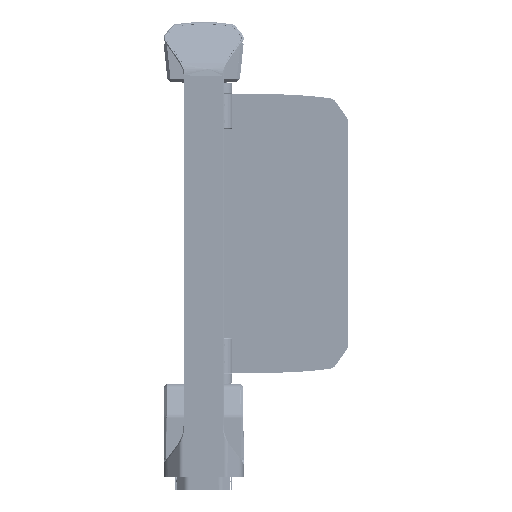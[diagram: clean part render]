
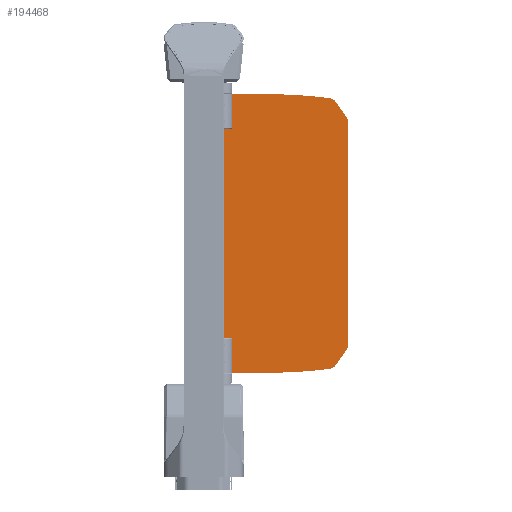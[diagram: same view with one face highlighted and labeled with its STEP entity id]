
A CAD part, front view. The second image highlights one B-rep face of the part: STEP entity #194468.
In plain terms, the highlighted planar face has unit normal (0, -1, 0).
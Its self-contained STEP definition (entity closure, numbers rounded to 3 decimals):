
#25220=CIRCLE('',#302014,20.);
#25222=CIRCLE('',#302018,20.);
#25224=CIRCLE('',#302022,20.);
#25226=CIRCLE('',#302025,1018.368);
#25228=CIRCLE('',#302029,10.);
#25230=CIRCLE('',#302033,10.);
#25232=CIRCLE('',#302037,10.);
#25234=CIRCLE('',#302041,10.);
#25236=CIRCLE('',#302045,10.);
#25238=CIRCLE('',#302049,10.);
#25240=CIRCLE('',#302053,1018.368);
#25242=CIRCLE('',#302056,20.);
#25243=CIRCLE('',#302059,7.);
#25244=CIRCLE('',#302060,7.);
#25245=CIRCLE('',#302061,7.);
#25246=CIRCLE('',#302062,7.);
#86279=ORIENTED_EDGE('',*,*,#114814,.T.);
#86280=ORIENTED_EDGE('',*,*,#114815,.T.);
#86281=ORIENTED_EDGE('',*,*,#114816,.T.);
#86282=ORIENTED_EDGE('',*,*,#114817,.T.);
#86283=ORIENTED_EDGE('',*,*,#114750,.F.);
#86284=ORIENTED_EDGE('',*,*,#114813,.F.);
#86285=ORIENTED_EDGE('',*,*,#114810,.F.);
#86286=ORIENTED_EDGE('',*,*,#114807,.F.);
#86287=ORIENTED_EDGE('',*,*,#114804,.F.);
#86288=ORIENTED_EDGE('',*,*,#114801,.F.);
#86289=ORIENTED_EDGE('',*,*,#114798,.F.);
#86290=ORIENTED_EDGE('',*,*,#114795,.F.);
#86291=ORIENTED_EDGE('',*,*,#114792,.F.);
#86292=ORIENTED_EDGE('',*,*,#114789,.F.);
#86293=ORIENTED_EDGE('',*,*,#114786,.F.);
#86294=ORIENTED_EDGE('',*,*,#114783,.F.);
#86295=ORIENTED_EDGE('',*,*,#114780,.F.);
#86296=ORIENTED_EDGE('',*,*,#114777,.F.);
#86297=ORIENTED_EDGE('',*,*,#114774,.F.);
#86298=ORIENTED_EDGE('',*,*,#114771,.F.);
#86299=ORIENTED_EDGE('',*,*,#114768,.F.);
#86300=ORIENTED_EDGE('',*,*,#114765,.F.);
#86301=ORIENTED_EDGE('',*,*,#114762,.F.);
#86302=ORIENTED_EDGE('',*,*,#114759,.F.);
#86303=ORIENTED_EDGE('',*,*,#114756,.F.);
#86304=ORIENTED_EDGE('',*,*,#114753,.F.);
#114750=EDGE_CURVE('',#131247,#131248,#25220,.T.);
#114753=EDGE_CURVE('',#131248,#131250,#141167,.T.);
#114756=EDGE_CURVE('',#131250,#131252,#25222,.T.);
#114759=EDGE_CURVE('',#131252,#131254,#141171,.T.);
#114762=EDGE_CURVE('',#131254,#131256,#25224,.T.);
#114765=EDGE_CURVE('',#131256,#131258,#25226,.T.);
#114768=EDGE_CURVE('',#131258,#131260,#141176,.T.);
#114771=EDGE_CURVE('',#131260,#131262,#25228,.T.);
#114774=EDGE_CURVE('',#131262,#131264,#141180,.T.);
#114777=EDGE_CURVE('',#131264,#131266,#25230,.T.);
#114780=EDGE_CURVE('',#131266,#131268,#141184,.T.);
#114783=EDGE_CURVE('',#131268,#131270,#25232,.T.);
#114786=EDGE_CURVE('',#131270,#131272,#141188,.T.);
#114789=EDGE_CURVE('',#131272,#131274,#25234,.T.);
#114792=EDGE_CURVE('',#131274,#131276,#141192,.T.);
#114795=EDGE_CURVE('',#131276,#131278,#25236,.T.);
#114798=EDGE_CURVE('',#131278,#131280,#141196,.T.);
#114801=EDGE_CURVE('',#131280,#131282,#25238,.T.);
#114804=EDGE_CURVE('',#131282,#131284,#141200,.T.);
#114807=EDGE_CURVE('',#131284,#131286,#25240,.T.);
#114810=EDGE_CURVE('',#131286,#131288,#25242,.T.);
#114813=EDGE_CURVE('',#131288,#131247,#141205,.T.);
#114814=EDGE_CURVE('',#131289,#131289,#25243,.T.);
#114815=EDGE_CURVE('',#131290,#131290,#25244,.T.);
#114816=EDGE_CURVE('',#131291,#131291,#25245,.T.);
#114817=EDGE_CURVE('',#131292,#131292,#25246,.T.);
#131247=VERTEX_POINT('',#489577);
#131248=VERTEX_POINT('',#489579);
#131250=VERTEX_POINT('',#489585);
#131252=VERTEX_POINT('',#489591);
#131254=VERTEX_POINT('',#489597);
#131256=VERTEX_POINT('',#489603);
#131258=VERTEX_POINT('',#489609);
#131260=VERTEX_POINT('',#489615);
#131262=VERTEX_POINT('',#489621);
#131264=VERTEX_POINT('',#489627);
#131266=VERTEX_POINT('',#489633);
#131268=VERTEX_POINT('',#489639);
#131270=VERTEX_POINT('',#489645);
#131272=VERTEX_POINT('',#489651);
#131274=VERTEX_POINT('',#489657);
#131276=VERTEX_POINT('',#489663);
#131278=VERTEX_POINT('',#489669);
#131280=VERTEX_POINT('',#489675);
#131282=VERTEX_POINT('',#489681);
#131284=VERTEX_POINT('',#489687);
#131286=VERTEX_POINT('',#489693);
#131288=VERTEX_POINT('',#489699);
#131289=VERTEX_POINT('',#489706);
#131290=VERTEX_POINT('',#489708);
#131291=VERTEX_POINT('',#489710);
#131292=VERTEX_POINT('',#489712);
#141167=LINE('',#489584,#151076);
#141171=LINE('',#489596,#151080);
#141176=LINE('',#489614,#151085);
#141180=LINE('',#489626,#151089);
#141184=LINE('',#489638,#151093);
#141188=LINE('',#489650,#151097);
#141192=LINE('',#489662,#151101);
#141196=LINE('',#489674,#151105);
#141200=LINE('',#489686,#151109);
#141205=LINE('',#489703,#151114);
#151076=VECTOR('',#356502,1000.);
#151080=VECTOR('',#356514,1000.);
#151085=VECTOR('',#356533,1000.);
#151089=VECTOR('',#356545,1000.);
#151093=VECTOR('',#356557,1000.);
#151097=VECTOR('',#356569,1000.);
#151101=VECTOR('',#356581,1000.);
#151105=VECTOR('',#356593,1000.);
#151109=VECTOR('',#356605,1000.);
#151114=VECTOR('',#356624,1000.);
#165119=EDGE_LOOP('',(#86279));
#165120=EDGE_LOOP('',(#86280));
#165121=EDGE_LOOP('',(#86281));
#165122=EDGE_LOOP('',(#86282));
#165123=EDGE_LOOP('',(#86283,#86284,#86285,#86286,#86287,#86288,#86289,
#86290,#86291,#86292,#86293,#86294,#86295,#86296,#86297,#86298,#86299,#86300,
#86301,#86302,#86303,#86304));
#179147=FACE_BOUND('',#165119,.T.);
#179148=FACE_BOUND('',#165120,.T.);
#179149=FACE_BOUND('',#165121,.T.);
#179150=FACE_BOUND('',#165122,.T.);
#179151=FACE_BOUND('',#165123,.T.);
#181586=PLANE('',#302058);
#194468=ADVANCED_FACE('',(#179147,#179148,#179149,#179150,#179151),#181586,
 .F.);
#302014=AXIS2_PLACEMENT_3D('',#489578,#356496,#356497);
#302018=AXIS2_PLACEMENT_3D('',#489590,#356508,#356509);
#302022=AXIS2_PLACEMENT_3D('',#489602,#356520,#356521);
#302025=AXIS2_PLACEMENT_3D('',#489608,#356527,#356528);
#302029=AXIS2_PLACEMENT_3D('',#489620,#356539,#356540);
#302033=AXIS2_PLACEMENT_3D('',#489632,#356551,#356552);
#302037=AXIS2_PLACEMENT_3D('',#489644,#356563,#356564);
#302041=AXIS2_PLACEMENT_3D('',#489656,#356575,#356576);
#302045=AXIS2_PLACEMENT_3D('',#489668,#356587,#356588);
#302049=AXIS2_PLACEMENT_3D('',#489680,#356599,#356600);
#302053=AXIS2_PLACEMENT_3D('',#489692,#356611,#356612);
#302056=AXIS2_PLACEMENT_3D('',#489698,#356618,#356619);
#302058=AXIS2_PLACEMENT_3D('',#489704,#356625,#356626);
#302059=AXIS2_PLACEMENT_3D('',#489705,#356627,#356628);
#302060=AXIS2_PLACEMENT_3D('',#489707,#356629,#356630);
#302061=AXIS2_PLACEMENT_3D('',#489709,#356631,#356632);
#302062=AXIS2_PLACEMENT_3D('',#489711,#356633,#356634);
#356496=DIRECTION('',(0.,1.,0.));
#356497=DIRECTION('',(1.,0.,0.));
#356502=DIRECTION('',(1.,0.,0.));
#356508=DIRECTION('',(0.,1.,0.));
#356509=DIRECTION('',(1.,0.,0.));
#356514=DIRECTION('',(0.819,0.,-0.574));
#356520=DIRECTION('',(0.,1.,0.));
#356521=DIRECTION('',(1.,0.,0.));
#356527=DIRECTION('',(0.,1.,0.));
#356528=DIRECTION('',(-1.,0.,0.));
#356533=DIRECTION('',(0.,0.,-1.));
#356539=DIRECTION('',(0.,1.,0.));
#356540=DIRECTION('',(-1.,0.,0.));
#356545=DIRECTION('',(-1.,0.,0.));
#356551=DIRECTION('',(0.,1.,0.));
#356552=DIRECTION('',(1.,0.,0.));
#356557=DIRECTION('',(-0.5,0.,0.866));
#356563=DIRECTION('',(0.,-1.,0.));
#356564=DIRECTION('',(1.,0.,0.));
#356569=DIRECTION('',(-1.,0.,0.));
#356575=DIRECTION('',(0.,-1.,0.));
#356576=DIRECTION('',(1.,0.,0.));
#356581=DIRECTION('',(-0.5,0.,-0.866));
#356587=DIRECTION('',(0.,1.,0.));
#356588=DIRECTION('',(1.,0.,0.));
#356593=DIRECTION('',(-1.,0.,0.));
#356599=DIRECTION('',(0.,1.,0.));
#356600=DIRECTION('',(1.,0.,0.));
#356605=DIRECTION('',(0.,0.,1.));
#356611=DIRECTION('',(0.,1.,0.));
#356612=DIRECTION('',(1.,0.,0.));
#356618=DIRECTION('',(0.,1.,0.));
#356619=DIRECTION('',(1.,0.,0.));
#356624=DIRECTION('',(0.819,0.,0.574));
#356625=DIRECTION('',(0.,1.,0.));
#356626=DIRECTION('',(0.,0.,1.));
#356627=DIRECTION('',(0.,1.,0.));
#356628=DIRECTION('',(1.,0.,0.));
#356629=DIRECTION('',(0.,1.,0.));
#356630=DIRECTION('',(1.,0.,0.));
#356631=DIRECTION('',(0.,1.,0.));
#356632=DIRECTION('',(1.,0.,0.));
#356633=DIRECTION('',(0.,1.,0.));
#356634=DIRECTION('',(1.,0.,0.));
#489577=CARTESIAN_POINT('',(-259.768,-5.,-3.617));
#489578=CARTESIAN_POINT('',(-248.296,-5.,-20.));
#489579=CARTESIAN_POINT('',(-248.296,-5.,0.));
#489584=CARTESIAN_POINT('',(-248.296,-5.,0.));
#489585=CARTESIAN_POINT('',(248.296,-5.,0.));
#489590=CARTESIAN_POINT('',(248.296,-5.,-20.));
#489591=CARTESIAN_POINT('',(259.768,-5.,-3.617));
#489596=CARTESIAN_POINT('',(295.472,-5.,-28.617));
#489597=CARTESIAN_POINT('',(295.472,-5.,-28.617));
#489602=CARTESIAN_POINT('',(284.,-5.,-45.));
#489603=CARTESIAN_POINT('',(303.83,-5.,-42.396));
#489608=CARTESIAN_POINT('',(-705.868,-5.,-175.));
#489609=CARTESIAN_POINT('',(312.5,-5.,-175.));
#489614=CARTESIAN_POINT('',(312.5,-5.,-175.));
#489615=CARTESIAN_POINT('',(312.5,-5.,-300.));
#489620=CARTESIAN_POINT('',(302.5,-5.,-300.));
#489621=CARTESIAN_POINT('',(302.5,-5.,-310.));
#489626=CARTESIAN_POINT('',(302.5,-5.,-310.));
#489627=CARTESIAN_POINT('',(238.5,-5.,-310.));
#489632=CARTESIAN_POINT('',(238.5,-5.,-300.));
#489633=CARTESIAN_POINT('',(229.84,-5.,-305.));
#489638=CARTESIAN_POINT('',(224.066,-5.,-295.));
#489639=CARTESIAN_POINT('',(224.066,-5.,-295.));
#489644=CARTESIAN_POINT('',(215.406,-5.,-300.));
#489645=CARTESIAN_POINT('',(215.406,-5.,-290.));
#489650=CARTESIAN_POINT('',(-215.406,-5.,-290.));
#489651=CARTESIAN_POINT('',(-215.406,-5.,-290.));
#489656=CARTESIAN_POINT('',(-215.406,-5.,-300.));
#489657=CARTESIAN_POINT('',(-224.066,-5.,-295.));
#489662=CARTESIAN_POINT('',(-229.84,-5.,-305.));
#489663=CARTESIAN_POINT('',(-229.84,-5.,-305.));
#489668=CARTESIAN_POINT('',(-238.5,-5.,-300.));
#489669=CARTESIAN_POINT('',(-238.5,-5.,-310.));
#489674=CARTESIAN_POINT('',(-238.5,-5.,-310.));
#489675=CARTESIAN_POINT('',(-302.5,-5.,-310.));
#489680=CARTESIAN_POINT('',(-302.5,-5.,-300.));
#489681=CARTESIAN_POINT('',(-312.5,-5.,-300.));
#489686=CARTESIAN_POINT('',(-312.5,-5.,-300.));
#489687=CARTESIAN_POINT('',(-312.5,-5.,-175.));
#489692=CARTESIAN_POINT('',(705.868,-5.,-175.));
#489693=CARTESIAN_POINT('',(-303.83,-5.,-42.396));
#489698=CARTESIAN_POINT('',(-284.,-5.,-45.));
#489699=CARTESIAN_POINT('',(-295.472,-5.,-28.617));
#489703=CARTESIAN_POINT('',(-295.472,-5.,-28.617));
#489704=CARTESIAN_POINT('',(-248.296,-5.,-20.));
#489705=CARTESIAN_POINT('',(250.5,-5.,-285.));
#489706=CARTESIAN_POINT('',(257.5,-5.,-285.));
#489707=CARTESIAN_POINT('',(-250.5,-5.,-285.));
#489708=CARTESIAN_POINT('',(-243.5,-5.,-285.));
#489709=CARTESIAN_POINT('',(-288.5,-5.,-285.));
#489710=CARTESIAN_POINT('',(-281.5,-5.,-285.));
#489711=CARTESIAN_POINT('',(288.5,-5.,-285.));
#489712=CARTESIAN_POINT('',(295.5,-5.,-285.));
